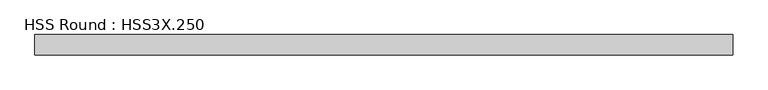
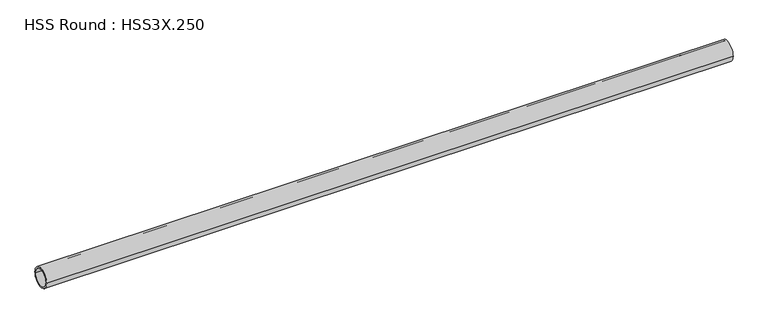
"""IFC4 building model written with IfcOpenShell, lengths in millimetres: member geometry, HSS Round : HSS3X.250."""

from ifc_helpers import new_model, si_unit, point, frame, origin, origin_2d, place, context, project, spatial, circle_curve, trimmed, segment, composite_curve, outline, extrude, source, transform, mapped, element, save


def hss_round_hss3x_250_88dde711(model_context):
    return source(origin(), model_context, "Body", "SweptSolid", [
        extrude(outline(composite_curve([segment(trimmed(circle_curve(origin_2d(), 38.1), [point((-38.1, 0.0))], [point((38.1, 0.0))], False, "CARTESIAN"), True, "CONTINUOUS"), segment(trimmed(circle_curve(origin_2d(), 38.1), [point((38.1, 0.0))], [point((-38.1, 0.0))], False, "CARTESIAN"), True, "CONTINUOUS")], self_intersect=False), holes=[composite_curve([segment(trimmed(circle_curve(origin_2d(), 31.75), [point((31.75, 0.0))], [point((-31.75, 0.0))], True, "CARTESIAN"), True, "CONTINUOUS"), segment(trimmed(circle_curve(origin_2d(), 31.75), [point((-31.75, 0.0))], [point((31.75, 0.0))], True, "CARTESIAN"), True, "CONTINUOUS")], self_intersect=False)]), frame((-1265.1324887, 0.0, 0.0), z_axis=(1.0, 0.0, 0.0), x_axis=(0.0, 1.0, 0.0)), (0.0, 0.0, 1.0), 2588.3367882),
    ])


if __name__ == "__main__":
    model = new_model("IFC4")
    model_context = context("Model", 3, world=origin())
    ifc_project = project(units=[si_unit("LENGTHUNIT", "METRE", prefix="MILLI")], contexts=[model_context])
    site = spatial("IfcSite", under=ifc_project)
    building = spatial("IfcBuilding", under=site)
    placement = place(None, origin())
    hss_round_hss3x_250_shape = hss_round_hss3x_250_88dde711(model_context)
    element("IfcMember", 1, ObjectType="HSS Round : HSS3X.250", at=placement, inside=building, context=model_context, shape_type="MappedRepresentation", body=[
        mapped(hss_round_hss3x_250_shape, transform((0.0, 0.0, 0.0), x_axis=(1.0, 0.0, 0.0), y_axis=(0.0, 1.0, 0.0), z_axis=(0.0, 0.0, 1.0))),
    ])
    save(model, "model.ifc")
